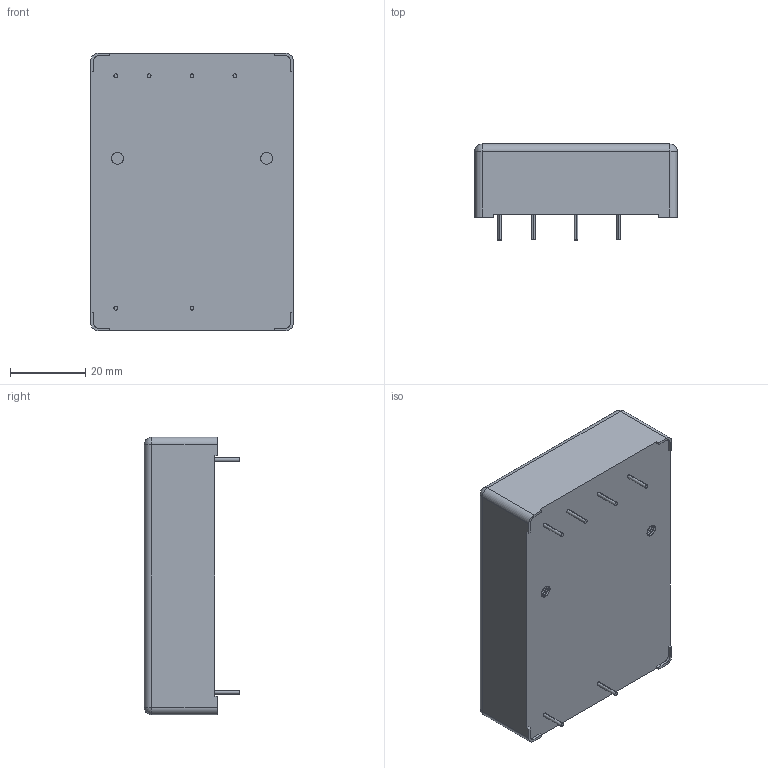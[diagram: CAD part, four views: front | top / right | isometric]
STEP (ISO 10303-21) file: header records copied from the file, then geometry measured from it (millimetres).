
FILE_DESCRIPTION (( 'STEP AP203' ), '1' );
FILE_NAME ('TMP 15 Dual Output Asymmetric.STEP', '2020-11-20T00:57:57', ( '' ), ( '' ), 'SwSTEP 2.0', 'SolidWorks 2020', '' );
FILE_SCHEMA (( 'CONFIG_CONTROL_DESIGN' ));
Length unit declared in the file: millimetre
Products named in the file (1): TMP 15 Dual Output Asymmetric
Bounding box: 54 x 25.5 x 74 mm (x, y, z)
Volume: 74796 mm3; surface area: 12882.4 mm2
Topology: 1 solids, 1 shells, 106 faces, 270 edges, 170 vertices
Faces by surface type: cylinder 56, plane 38, bspline 8, sphere 4
Entity records: 5748 total; most frequent: CARTESIAN_POINT 3312, ORIENTED_EDGE 532, DIRECTION 456, EDGE_CURVE 266, VERTEX_POINT 170, AXIS2_PLACEMENT_3D 159, VECTOR 138, LINE 138
